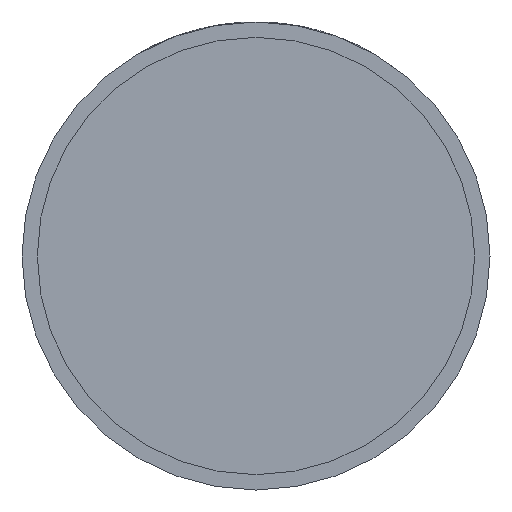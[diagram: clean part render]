
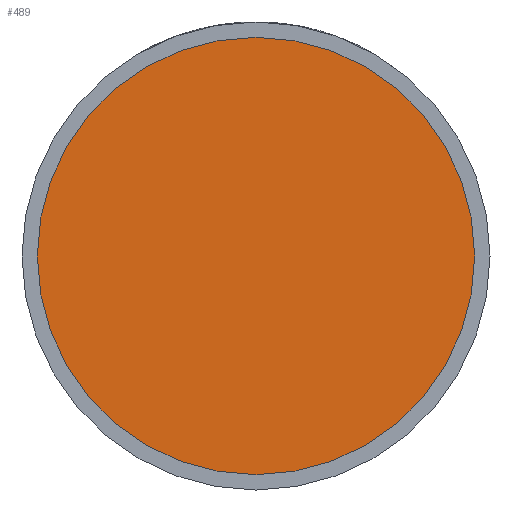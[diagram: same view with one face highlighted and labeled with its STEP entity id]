
A CAD part, front view. The second image highlights one B-rep face of the part: STEP entity #489.
In plain terms, the highlighted planar face has unit normal (0, -1, 0).
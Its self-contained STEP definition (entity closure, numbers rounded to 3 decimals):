
#9 = VERTEX_POINT ( 'NONE', #1028 ) ;
#212 = DIRECTION ( 'NONE',  ( 1., 0., 0. ) ) ;
#480 = CIRCLE ( 'NONE', #616, 28.5 ) ;
#489 = ADVANCED_FACE ( 'NONE', ( #1544 ), #3243, .T. ) ;
#534 = CARTESIAN_POINT ( 'NONE',  ( 0., -17.5, 0. ) ) ;
#616 = AXIS2_PLACEMENT_3D ( 'NONE', #1400, #2999, #3643 ) ;
#1028 = CARTESIAN_POINT ( 'NONE',  ( -28.5, -17.5, 0. ) ) ;
#1233 = DIRECTION ( 'NONE',  ( 0., -1., 0. ) ) ;
#1400 = CARTESIAN_POINT ( 'NONE',  ( 0., -17.5, 0. ) ) ;
#1544 = FACE_OUTER_BOUND ( 'NONE', #1586, .T. ) ;
#1586 = EDGE_LOOP ( 'NONE', ( #2456, #4115 ) ) ;
#1800 = CARTESIAN_POINT ( 'NONE',  ( 28.5, -17.5, 0. ) ) ;
#1847 = DIRECTION ( 'NONE',  ( 0., -1., 0. ) ) ;
#1871 = EDGE_CURVE ( 'NONE', #9, #3897, #2550, .T. ) ;
#1936 = AXIS2_PLACEMENT_3D ( 'NONE', #534, #1847, #212 ) ;
#2273 = EDGE_CURVE ( 'NONE', #3897, #9, #480, .T. ) ;
#2393 = AXIS2_PLACEMENT_3D ( 'NONE', #3889, #1233, #2578 ) ;
#2456 = ORIENTED_EDGE ( 'NONE', *, *, #2273, .T. ) ;
#2550 = CIRCLE ( 'NONE', #1936, 28.5 ) ;
#2578 = DIRECTION ( 'NONE',  ( 1., 0., 0. ) ) ;
#2999 = DIRECTION ( 'NONE',  ( 0., -1., 0. ) ) ;
#3243 = PLANE ( 'NONE',  #2393 ) ;
#3643 = DIRECTION ( 'NONE',  ( 1., 0., 0. ) ) ;
#3889 = CARTESIAN_POINT ( 'NONE',  ( 28.5, -17.5, 0. ) ) ;
#3897 = VERTEX_POINT ( 'NONE', #1800 ) ;
#4115 = ORIENTED_EDGE ( 'NONE', *, *, #1871, .T. ) ;
